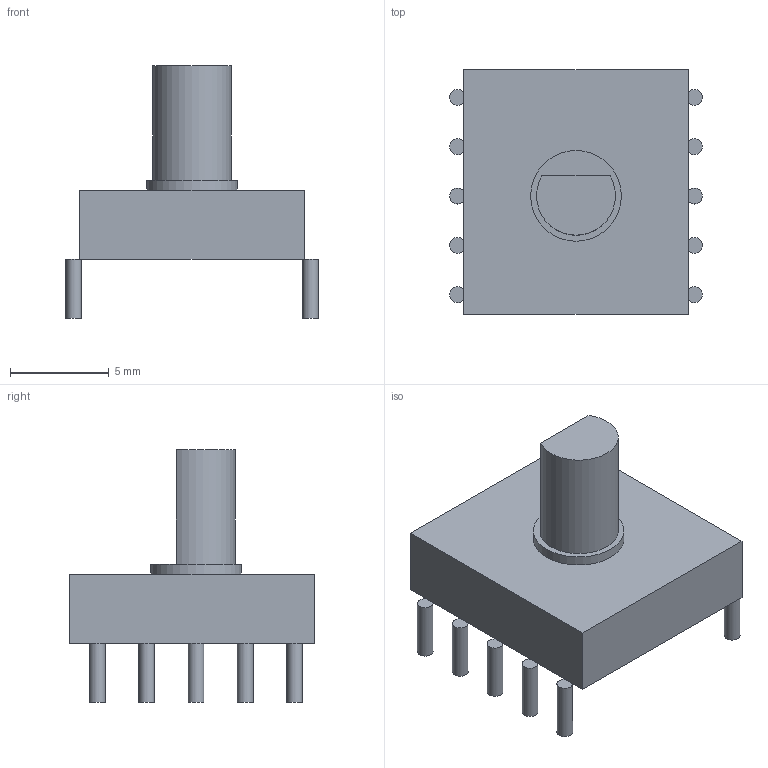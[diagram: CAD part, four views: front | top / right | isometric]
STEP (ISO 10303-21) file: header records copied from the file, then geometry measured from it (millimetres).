
FILE_DESCRIPTION(('Open CASCADE Model'),'2;1');
FILE_NAME('Open CASCADE Shape Model','2026-10-30T08:53:28',('Author'),( 'Open CASCADE'),'Open CASCADE STEP processor 8.0','Open CASCADE 8.0' ,'Unknown');
FILE_SCHEMA(('AUTOMOTIVE_DESIGN { 1 0 10303 214 1 1 1 1 }'));
Length unit declared in the file: millimetre
Products named in the file (13): SRBQ490100 nominal rectangular body envelope 11.4x12.4x3.5mm; Nominal collar diameter4.6REF, axial0.5mm; Nominal Dshaft diameter4 flat3, shaft5.8, PCBface-to-tip9.8mm; angular 
index unqualified; Physical terminal1, target position1 (A denotes common); nominal3mm 
tail; width-based nominal diameter0.8 visual proxy; Physical terminal2, target position2 (A denotes common); nominal3mm 
tail; width-based nominal diameter0.8 visual proxy; Physical terminal3, target positionA (A denotes common); nominal3mm 
tail; width-based nominal diameter0.8 visual proxy; Physical terminal4, target position3 (A denotes common); nominal3mm 
tail; width-based nominal diameter0.8 visual proxy; Physical terminal5, target position4 (A denotes common); nominal3mm 
tail; width-based nominal diameter0.8 visual proxy; Physical terminal6, target position5 (A denotes common); nominal3mm 
tail; width-based nominal diameter0.8 visual proxy; Physical terminal7, target position6 (A denotes common); nominal3mm 
tail; width-based nominal diameter0.8 visual proxy; Physical terminal8, target position7 (A denotes common); nominal3mm 
tail; width-based nominal diameter0.8 visual proxy; Physical terminal9, target position8 (A denotes common); nominal3mm 
tail; width-based nominal diameter0.8 visual proxy; Physical terminal10, target position9 (A denotes common); nominal3mm 
tail; width-based nominal diameter0.8 visual proxy
Bounding box: 12.8 x 12.4 x 12.8 mm (x, y, z)
Volume: 576.8 mm3; surface area: 664.1 mm2
Topology: 13 solids, 13 shells, 44 faces, 54 edges, 36 vertices
Faces by surface type: plane 31, cylinder 13
Full cylindrical faces by diameter (mm): 0.8 x10, 4.6 x1
Entity records: 1818 total; most frequent: DIRECTION 270, CARTESIAN_POINT 251, ORIENTED_EDGE 108, PCURVE 108, DEFINITIONAL_REPRESENTATION 108, LINE 102, VECTOR 102, AXIS2_PLACEMENT_3D 71
